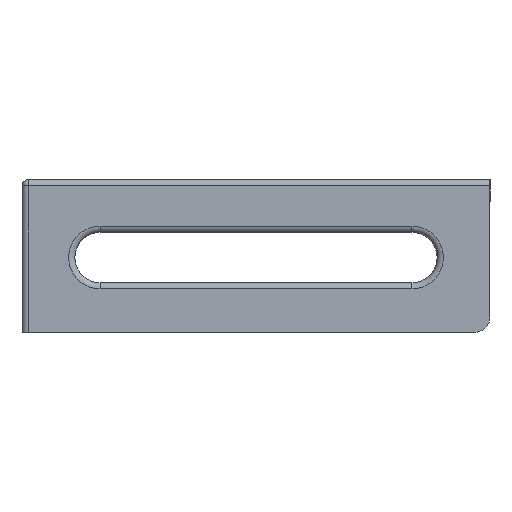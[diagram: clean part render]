
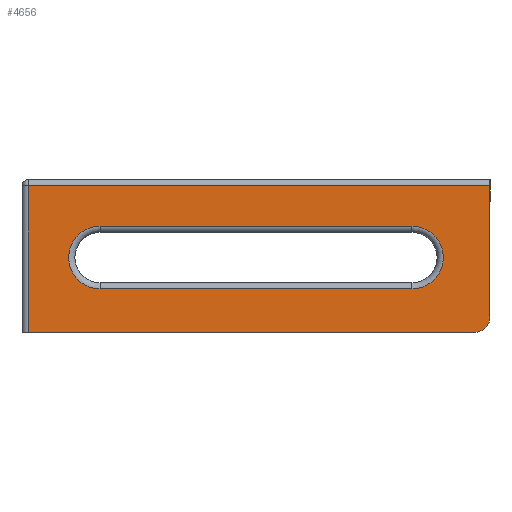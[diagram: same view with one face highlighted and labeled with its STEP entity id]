
A CAD part, front view. The second image highlights one B-rep face of the part: STEP entity #4656.
In plain terms, the highlighted planar face has unit normal (0, -1, 0).
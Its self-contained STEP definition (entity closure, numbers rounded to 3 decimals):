
#42 = LINE ( 'NONE', #1629, #2908 ) ;
#80 = DIRECTION ( 'NONE',  ( 0., 1., 0. ) ) ;
#110 = CARTESIAN_POINT ( 'NONE',  ( 25., 0., -35.05 ) ) ;
#186 = CIRCLE ( 'NONE', #3999, 5. ) ;
#229 = AXIS2_PLACEMENT_3D ( 'NONE', #2492, #964, #3655 ) ;
#262 = EDGE_CURVE ( 'NONE', #1441, #4304, #42, .T. ) ;
#356 = CARTESIAN_POINT ( 'NONE',  ( 0., 0., -49. ) ) ;
#462 = DIRECTION ( 'NONE',  ( -1., 0., 0. ) ) ;
#535 = CARTESIAN_POINT ( 'NONE',  ( 125., 0., -14.95 ) ) ;
#537 = VERTEX_POINT ( 'NONE', #3172 ) ;
#670 = FACE_BOUND ( 'NONE', #4176, .T. ) ;
#683 = CARTESIAN_POINT ( 'NONE',  ( 145., 0., -44. ) ) ;
#722 = CARTESIAN_POINT ( 'NONE',  ( 2., 0., -49. ) ) ;
#755 = AXIS2_PLACEMENT_3D ( 'NONE', #2069, #80, #3608 ) ;
#794 = ORIENTED_EDGE ( 'NONE', *, *, #2355, .T. ) ;
#862 = AXIS2_PLACEMENT_3D ( 'NONE', #5011, #3054, #1955 ) ;
#870 = VECTOR ( 'NONE', #1865, 1000. ) ;
#895 = CARTESIAN_POINT ( 'NONE',  ( 150., 0., -2. ) ) ;
#902 = CARTESIAN_POINT ( 'NONE',  ( 25., 0., -35.05 ) ) ;
#947 = CARTESIAN_POINT ( 'NONE',  ( 145., 0., -49. ) ) ;
#958 = VERTEX_POINT ( 'NONE', #902 ) ;
#964 = DIRECTION ( 'NONE',  ( 0., 1., 0. ) ) ;
#972 = VERTEX_POINT ( 'NONE', #535 ) ;
#1051 = PLANE ( 'NONE',  #862 ) ;
#1374 = VECTOR ( 'NONE', #2595, 1000. ) ;
#1417 = VERTEX_POINT ( 'NONE', #947 ) ;
#1441 = VERTEX_POINT ( 'NONE', #895 ) ;
#1629 = CARTESIAN_POINT ( 'NONE',  ( 0., 0., -2. ) ) ;
#1690 = CARTESIAN_POINT ( 'NONE',  ( 125., 0., -35.05 ) ) ;
#1855 = EDGE_CURVE ( 'NONE', #2623, #972, #2632, .T. ) ;
#1865 = DIRECTION ( 'NONE',  ( 0., 0., -1. ) ) ;
#1940 = DIRECTION ( 'NONE',  ( 0., 0., -1. ) ) ;
#1955 = DIRECTION ( 'NONE',  ( 0., 0., -1. ) ) ;
#2069 = CARTESIAN_POINT ( 'NONE',  ( 25., 0., -25. ) ) ;
#2096 = LINE ( 'NONE', #110, #2585 ) ;
#2108 = CARTESIAN_POINT ( 'NONE',  ( 150., 0., -49. ) ) ;
#2251 = CARTESIAN_POINT ( 'NONE',  ( 125., 0., -14.95 ) ) ;
#2355 = EDGE_CURVE ( 'NONE', #537, #1441, #3292, .T. ) ;
#2388 = EDGE_LOOP ( 'NONE', ( #794, #3425, #2883, #5100, #4900 ) ) ;
#2492 = CARTESIAN_POINT ( 'NONE',  ( 125., 0., -25. ) ) ;
#2585 = VECTOR ( 'NONE', #3281, 1000. ) ;
#2595 = DIRECTION ( 'NONE',  ( 0., 0., 1. ) ) ;
#2623 = VERTEX_POINT ( 'NONE', #4962 ) ;
#2632 = LINE ( 'NONE', #2251, #2788 ) ;
#2708 = EDGE_CURVE ( 'NONE', #972, #3664, #4361, .T. ) ;
#2788 = VECTOR ( 'NONE', #3819, 1000. ) ;
#2883 = ORIENTED_EDGE ( 'NONE', *, *, #5075, .T. ) ;
#2908 = VECTOR ( 'NONE', #462, 1000. ) ;
#3054 = DIRECTION ( 'NONE',  ( 0., -1., 0. ) ) ;
#3085 = VECTOR ( 'NONE', #4702, 1000. ) ;
#3172 = CARTESIAN_POINT ( 'NONE',  ( 150., 0., -44. ) ) ;
#3277 = EDGE_CURVE ( 'NONE', #958, #2623, #5049, .T. ) ;
#3281 = DIRECTION ( 'NONE',  ( -1., 0., 0. ) ) ;
#3292 = LINE ( 'NONE', #2108, #1374 ) ;
#3425 = ORIENTED_EDGE ( 'NONE', *, *, #262, .T. ) ;
#3521 = ORIENTED_EDGE ( 'NONE', *, *, #1855, .T. ) ;
#3607 = ORIENTED_EDGE ( 'NONE', *, *, #3277, .T. ) ;
#3608 = DIRECTION ( 'NONE',  ( 0., 0., -1. ) ) ;
#3623 = ORIENTED_EDGE ( 'NONE', *, *, #3757, .T. ) ;
#3655 = DIRECTION ( 'NONE',  ( 0., 0., -1. ) ) ;
#3664 = VERTEX_POINT ( 'NONE', #1690 ) ;
#3757 = EDGE_CURVE ( 'NONE', #3664, #958, #2096, .T. ) ;
#3801 = CARTESIAN_POINT ( 'NONE',  ( 2., 0., -49. ) ) ;
#3819 = DIRECTION ( 'NONE',  ( 1., 0., 0. ) ) ;
#3828 = FACE_OUTER_BOUND ( 'NONE', #2388, .T. ) ;
#3931 = LINE ( 'NONE', #356, #3085 ) ;
#3963 = EDGE_CURVE ( 'NONE', #4645, #1417, #3931, .T. ) ;
#3999 = AXIS2_PLACEMENT_3D ( 'NONE', #683, #5054, #1940 ) ;
#4176 = EDGE_LOOP ( 'NONE', ( #3623, #3607, #3521, #4781 ) ) ;
#4262 = LINE ( 'NONE', #722, #870 ) ;
#4304 = VERTEX_POINT ( 'NONE', #4742 ) ;
#4320 = EDGE_CURVE ( 'NONE', #1417, #537, #186, .T. ) ;
#4361 = CIRCLE ( 'NONE', #229, 10.05 ) ;
#4645 = VERTEX_POINT ( 'NONE', #3801 ) ;
#4656 = ADVANCED_FACE ( 'NONE', ( #670, #3828 ), #1051, .T. ) ;
#4702 = DIRECTION ( 'NONE',  ( 1., 0., 0. ) ) ;
#4742 = CARTESIAN_POINT ( 'NONE',  ( 2., 0., -2. ) ) ;
#4781 = ORIENTED_EDGE ( 'NONE', *, *, #2708, .T. ) ;
#4900 = ORIENTED_EDGE ( 'NONE', *, *, #4320, .T. ) ;
#4962 = CARTESIAN_POINT ( 'NONE',  ( 25., 0., -14.95 ) ) ;
#5011 = CARTESIAN_POINT ( 'NONE',  ( 0., 0., -49. ) ) ;
#5049 = CIRCLE ( 'NONE', #755, 10.05 ) ;
#5054 = DIRECTION ( 'NONE',  ( 0., -1., 0. ) ) ;
#5075 = EDGE_CURVE ( 'NONE', #4304, #4645, #4262, .T. ) ;
#5100 = ORIENTED_EDGE ( 'NONE', *, *, #3963, .T. ) ;
